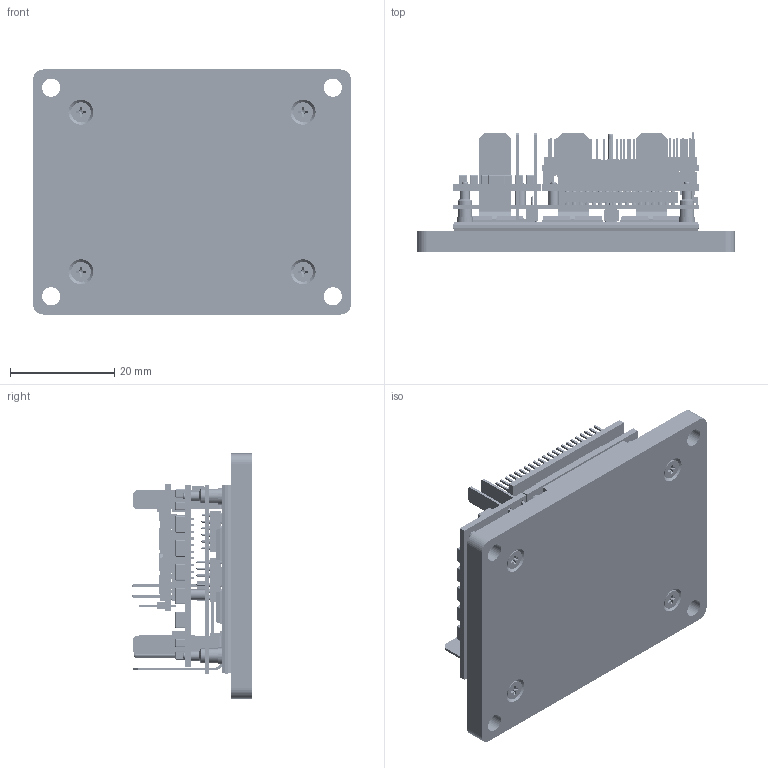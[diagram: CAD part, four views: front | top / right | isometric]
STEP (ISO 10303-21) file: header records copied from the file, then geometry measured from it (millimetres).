
FILE_DESCRIPTION (( 'STEP AP203' ), '1' );
FILE_NAME ('G-TWID ECAT+HS.STEP', '2019-06-10T12:50:00', ( 'user' ), ( 'Microsoft' ), 'SwSTEP 2.0', 'SolidWorks 2018', '' );
FILE_SCHEMA (( 'CONFIG_CONTROL_DESIGN' ));
Products named in the file (1): G-TWID ECAT+HS
Bounding box: 61 x 22.99 x 47 mm (x, y, z)
Volume: 20852 mm3; surface area: 32703.1 mm2
Topology: 209 solids, 209 shells, 12593 faces, 32439 edges, 21142 vertices
Faces by surface type: plane 7642, bspline 3071, cylinder 1472, sphere 194, cone 162, torus 52
Full cylindrical faces by diameter (mm): 0.406 x46, 0.6 x57, 0.7 x3, 0.8 x132, 0.805 x92, 0.864 x55, 1.02 x1, 1.2 x14, 1.3 x7, 1.6 x4, 1.8 x4, 2 x7, 2.4 x4, 2.41 x1, 2.54 x1, 2.6 x4, 2.8 x8, 3.1 x4, 3.2 x4, 3.5 x8, 3.8 x4
Entity records: 533167 total; most frequent: CARTESIAN_POINT 249965, ORIENTED_EDGE 62722, DIRECTION 47142, EDGE_CURVE 31361, LINE 21374, VECTOR 21374, VERTEX_POINT 20927, EDGE_LOOP 14900
